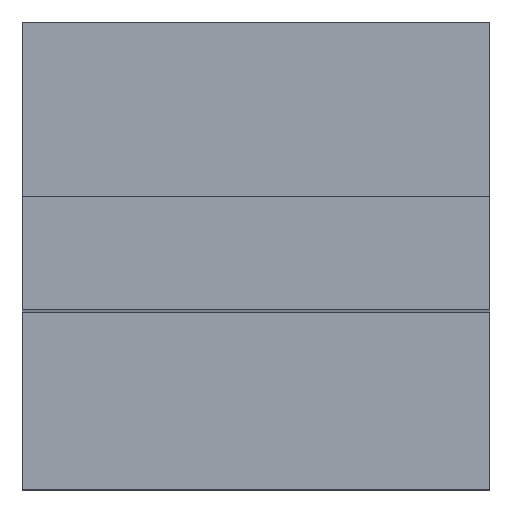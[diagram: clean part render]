
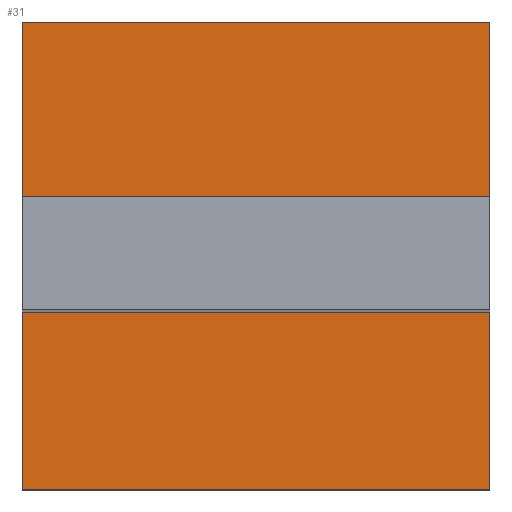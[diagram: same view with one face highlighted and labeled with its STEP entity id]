
A CAD part, top view. The second image highlights one B-rep face of the part: STEP entity #31.
In plain terms, the highlighted planar face has unit normal (0, 0, 1).
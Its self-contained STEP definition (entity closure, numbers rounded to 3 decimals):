
#31=ADVANCED_FACE($,(#55),#325,.T.);
#55=FACE_OUTER_BOUND($,#79,.T.);
#79=EDGE_LOOP($,(#111,#112,#113,#114));
#111=ORIENTED_EDGE($,*,*,#214,.T.);
#112=ORIENTED_EDGE($,*,*,#215,.T.);
#113=ORIENTED_EDGE($,*,*,#211,.F.);
#114=ORIENTED_EDGE($,*,*,#216,.T.);
#211=EDGE_CURVE($,#279,#280,#351,.T.);
#214=EDGE_CURVE($,#281,#282,#354,.T.);
#215=EDGE_CURVE($,#282,#280,#355,.T.);
#216=EDGE_CURVE($,#279,#281,#356,.T.);
#279=VERTEX_POINT($,#596);
#280=VERTEX_POINT($,#597);
#281=VERTEX_POINT($,#598);
#282=VERTEX_POINT($,#599);
#325=PLANE($,#506);
#351=B_SPLINE_CURVE_WITH_KNOTS($,1,(#572,#573),.UNSPECIFIED.,.F.,.F.,(2,
2),(0.,50.),.UNSPECIFIED.);
#354=B_SPLINE_CURVE_WITH_KNOTS($,1,(#578,#579),.UNSPECIFIED.,.F.,.F.,(2,
2),(0.,50.),.UNSPECIFIED.);
#355=B_SPLINE_CURVE_WITH_KNOTS($,1,(#580,#581),.UNSPECIFIED.,.F.,.F.,(2,
2),(-3.,-2.),.UNSPECIFIED.);
#356=B_SPLINE_CURVE_WITH_KNOTS($,1,(#582,#583),.UNSPECIFIED.,.F.,.F.,(2,
2),(2.,3.),.UNSPECIFIED.);
#506=AXIS2_PLACEMENT_3D($,#590,#535,$);
#535=DIRECTION($,(0.,0.,1.));
#572=CARTESIAN_POINT($,(25.,-25.,1.5));
#573=CARTESIAN_POINT($,(-25.,-25.,1.5));
#578=CARTESIAN_POINT($,(25.,25.,1.5));
#579=CARTESIAN_POINT($,(-25.,25.,1.5));
#580=CARTESIAN_POINT($,(-25.,25.,1.5));
#581=CARTESIAN_POINT($,(-25.,-25.,1.5));
#582=CARTESIAN_POINT($,(25.,-25.,1.5));
#583=CARTESIAN_POINT($,(25.,25.,1.5));
#590=CARTESIAN_POINT($,(-25.,-25.,1.5));
#596=CARTESIAN_POINT($,(25.,-25.,1.5));
#597=CARTESIAN_POINT($,(-25.,-25.,1.5));
#598=CARTESIAN_POINT($,(25.,25.,1.5));
#599=CARTESIAN_POINT($,(-25.,25.,1.5));
